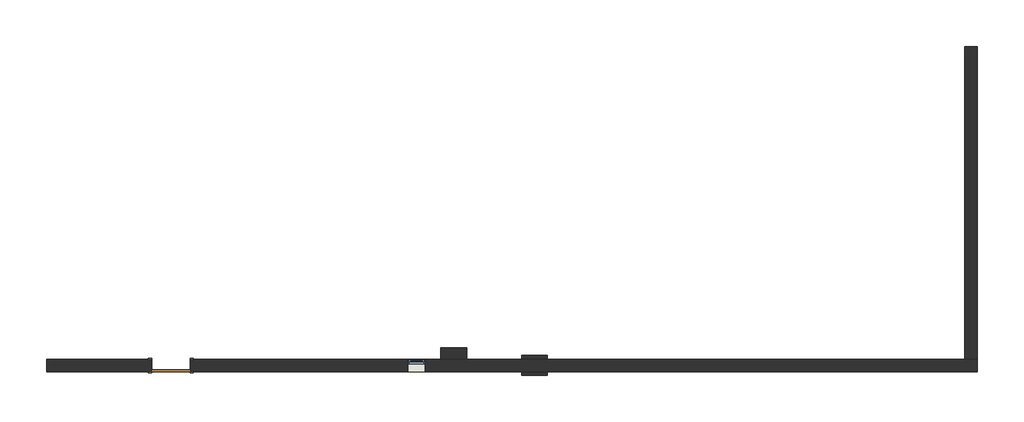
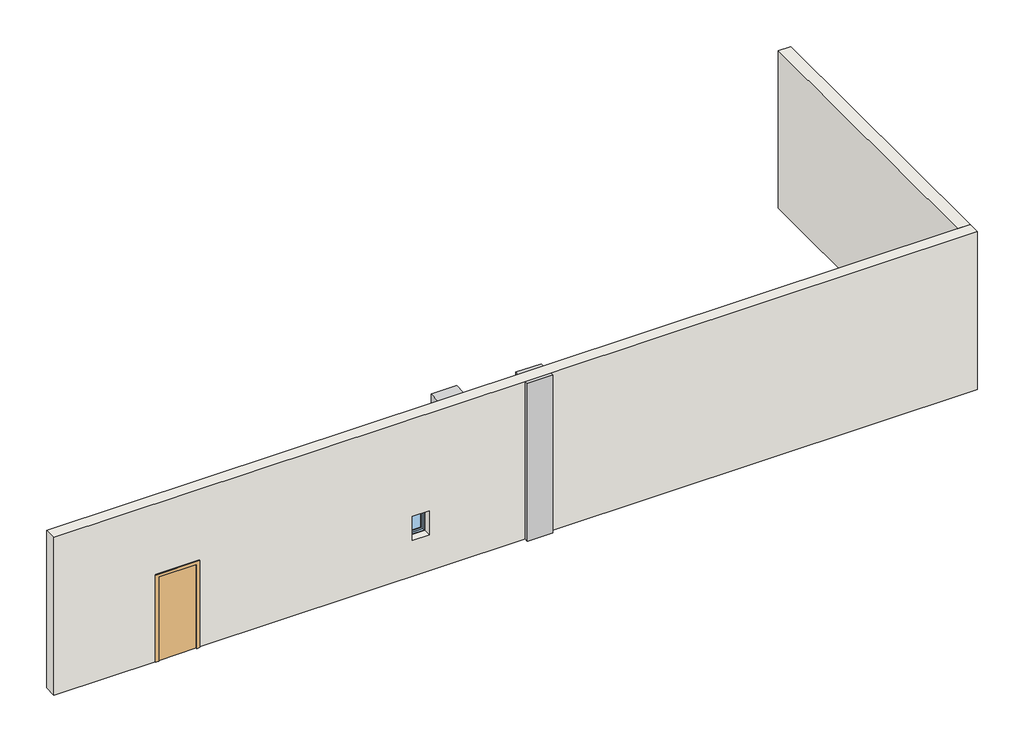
# One storey: 2 columns, 2 walls, 1 door, 1 window.
"""IFC4 building model written with IfcOpenShell, lengths in millimetres."""

import ifcopenshell
import ifcopenshell.guid

model = None  # the IFC model being written
_history = None  # IfcOwnerHistory: only IFC2X3 demands one
_inside = {}  # id of a spatial element -> (the spatial element, [elements in it])
_under = {}  # id of a project, library or spatial element -> (it, [spatial elements below it])
_declared = {}  # id of a project -> (the project, [libraries it declares])
_typed = {}  # id of a type object -> (the type object, [elements of that type])
_made_of = {}  # id of a material, layer set ... -> (it, [elements and type objects made of it])


def new_model(schema):
    """Start an empty IFC model of exactly this schema.

    Asked for "IFC4X3", IfcOpenShell would pick the latest addendum, in which some entities
    have other attributes; the version numbers below select the first issue.
    IFC2X3 requires an IfcOwnerHistory on every rooted entity: one is made here for all.
    """
    global model, _history
    if schema == "IFC4X3":
        model = ifcopenshell.file(schema_version=(4, 3, 0, 0))
    else:
        model = ifcopenshell.file(schema=schema)
    _inside.clear()
    _under.clear()
    _declared.clear()
    _typed.clear()
    _made_of.clear()
    _history = None
    if model.schema == "IFC2X3":
        org = make("IfcOrganization", Name="unknown")
        user = make(
            "IfcPersonAndOrganization",
            ThePerson=make("IfcPerson", FamilyName="unknown"),
            TheOrganization=org,
        )
        app = make(
            "IfcApplication",
            ApplicationDeveloper=org,
            Version="unknown",
            ApplicationFullName="unknown",
            ApplicationIdentifier="unknown",
        )
        _history = make(
            "IfcOwnerHistory",
            OwningUser=user,
            OwningApplication=app,
            ChangeAction="ADDED",
            CreationDate=0,
        )
    return model


def make(cls, **values):
    """One entity of the class cls with the attributes given. An attribute that is None is left unset."""
    return model.create_entity(
        cls, **{name: value for name, value in values.items() if value is not None}
    )


def rooted(cls, **values):
    """An entity with a GlobalId (a new one), such as an element, a storey or a relation."""
    return make(cls, GlobalId=ifcopenshell.guid.new(), OwnerHistory=_history, **values)


def si_unit(unit_type, name, prefix=None):
    """IfcSIUnit, for example si_unit("LENGTHUNIT", "METRE", prefix="MILLI")."""
    return make("IfcSIUnit", UnitType=unit_type, Prefix=prefix, Name=name)


def assignment(units):
    """IfcUnitAssignment: the units of a project."""
    return None if units is None else make("IfcUnitAssignment", Units=units)


def point(xyz):
    """IfcCartesianPoint."""
    return None if xyz is None else make("IfcCartesianPoint", Coordinates=xyz)


def direction(xyz):
    """IfcDirection."""
    return None if xyz is None else make("IfcDirection", DirectionRatios=xyz)


def frame(location, z_axis=None, x_axis=None):
    """IfcAxis2Placement3D, a coordinate frame: its origin and axes. An axis left out is left unset."""
    return make(
        "IfcAxis2Placement3D",
        Location=point(location),
        Axis=direction(z_axis),
        RefDirection=direction(x_axis),
    )


def origin():
    """The frame at (0, 0, 0) with its axes left unset."""
    return frame((0.0, 0.0, 0.0))


def origin_with_axes():
    """The frame at (0, 0, 0) with the z axis (0, 0, 1) and the x axis (1, 0, 0) written out."""
    return frame((0.0, 0.0, 0.0), z_axis=(0.0, 0.0, 1.0), x_axis=(1.0, 0.0, 0.0))


def place(relative_to, where):
    """IfcLocalPlacement: puts the frame where relative to a parent placement (None: the world)."""
    return make(
        "IfcLocalPlacement", PlacementRelTo=relative_to, RelativePlacement=where
    )


def context(
    kind, dimensions, precision=None, world=None, true_north=None, identifier=None
):
    """IfcGeometricRepresentationContext, for example the 3D "Model" context."""
    return make(
        "IfcGeometricRepresentationContext",
        ContextIdentifier=identifier,
        ContextType=kind,
        CoordinateSpaceDimension=dimensions,
        Precision=precision,
        WorldCoordinateSystem=world,
        TrueNorth=true_north,
    )


def project(units=None, contexts=None):
    """IfcProject with its units and contexts."""
    return rooted(
        "IfcProject",
        Name="project",
        RepresentationContexts=contexts,
        UnitsInContext=assignment(units),
    )


def spatial(cls, under=None, at=None, **own):
    """A site, building, storey or space (cls), placed at a placement, below another one or the project."""
    s = rooted(cls, ObjectPlacement=at, **own)
    if under is not None:
        _under.setdefault(under.id(), (under, []))[1].append(s)
    return s


def polyline(points):
    """IfcPolyline through the points."""
    return make("IfcPolyline", Points=[point(p) for p in points])


def outline(outer, holes=None, kind="AREA"):
    """IfcArbitraryClosedProfileDef: a profile drawn as a closed curve; with holes, ...WithVoids."""
    if holes is None:
        return make("IfcArbitraryClosedProfileDef", ProfileType=kind, OuterCurve=outer)
    return make(
        "IfcArbitraryProfileDefWithVoids",
        ProfileType=kind,
        OuterCurve=outer,
        InnerCurves=holes,
    )


def extrude(swept, where, along, depth):
    """IfcExtrudedAreaSolid: the profile swept, set in the frame where, extruded along a direction by depth."""
    return make(
        "IfcExtrudedAreaSolid",
        SweptArea=swept,
        Position=where,
        ExtrudedDirection=direction(along),
        Depth=depth,
    )


def faces_of(points, faces, orient=None, outer=None):
    """IfcFace entities. A face is a list of loops; a loop is a list of indices into points, from 0.

    orient and outer hold one flag for each loop. By default every Orientation is true, the
    first loop of a face is its IfcFaceOuterBound and the others are IfcFaceBound.
    """
    made = []
    for i, loops in enumerate(faces):
        bounds = []
        for j, loop in enumerate(loops):
            is_outer = j == 0 if outer is None else outer[i][j]
            bounds.append(
                make(
                    "IfcFaceOuterBound" if is_outer else "IfcFaceBound",
                    Bound=make("IfcPolyLoop", Polygon=[points[k] for k in loop]),
                    Orientation=True if orient is None else orient[i][j],
                )
            )
        made.append(make("IfcFace", Bounds=bounds))
    return made


def faceted_brep(points, faces, orient=None, outer=None, voids=None):
    """IfcFacetedBrep: a solid bounded by flat faces; with voids (closed shells), ...WithVoids."""
    shared = [point(p) for p in points]
    hull = make("IfcClosedShell", CfsFaces=faces_of(shared, faces, orient, outer))
    if voids is None:
        return make("IfcFacetedBrep", Outer=hull)
    return make(
        "IfcFacetedBrepWithVoids",
        Outer=hull,
        Voids=[
            make(cls, CfsFaces=faces_of(shared, fs, o, b)) for cls, fs, o, b in voids
        ],
    )


def shape(context_of_items, identifier, shape_type, items):
    """IfcShapeRepresentation: the items that make up one representation, for example the "Body"."""
    return make(
        "IfcShapeRepresentation",
        ContextOfItems=context_of_items,
        RepresentationIdentifier=identifier,
        RepresentationType=shape_type,
        Items=items,
    )


def source(mapping_origin, context_of_items, identifier, shape_type, items):
    """IfcRepresentationMap: a shape defined once, which mapped items show again and again."""
    return make(
        "IfcRepresentationMap",
        MappingOrigin=mapping_origin,
        MappedRepresentation=shape(context_of_items, identifier, shape_type, items),
    )


def transform(
    local_origin,
    x_axis=None,
    y_axis=None,
    z_axis=None,
    scale=None,
    scale2=None,
    scale3=None,
    uniform=True,
):
    """IfcCartesianTransformationOperator3D, or its non-uniform kind. x_axis, y_axis, z_axis: its Axis1, 2, 3."""
    if uniform:
        return make(
            "IfcCartesianTransformationOperator3D",
            Axis1=direction(x_axis),
            Axis2=direction(y_axis),
            LocalOrigin=point(local_origin),
            Scale=scale,
            Axis3=direction(z_axis),
        )
    return make(
        "IfcCartesianTransformationOperator3DnonUniform",
        Axis1=direction(x_axis),
        Axis2=direction(y_axis),
        LocalOrigin=point(local_origin),
        Scale=scale,
        Axis3=direction(z_axis),
        Scale2=scale2,
        Scale3=scale3,
    )


def mapped(mapping_source, mapping_target):
    """IfcMappedItem: shows the shape of a source again, moved by a transform."""
    return make(
        "IfcMappedItem", MappingSource=mapping_source, MappingTarget=mapping_target
    )


def made_of(thing, what):
    """Note that an element or type object is made of a material, layer set ...; save() writes the relation."""
    if what is not None:
        _made_of.setdefault(what.id(), (what, []))[1].append(thing)
    return thing


def element(
    cls,
    number,
    at=None,
    inside=None,
    cuts=None,
    type_object=None,
    material=None,
    context=None,
    identifier="Body",
    shape_type=None,
    held_by="IfcProductDefinitionShape",
    body=None,
    shapes=None,
    **own,
):
    """One element of the class cls, such as IfcWall. Its Tag is "e" and its number.

    at: its placement. inside: the storey or other place that contains it. cuts: it is an
    opening in that element (IfcRelVoidsElement). A single representation is given by context,
    identifier, shape_type and body (its items); several are given by shapes. held_by: the class
    of the entity that holds the representations. save() writes the other relations.
    """
    e = rooted(cls, Tag="e%d" % number, ObjectPlacement=at, **own)
    if body is not None:
        shapes = [shape(context, identifier, shape_type, body)]
    if shapes is not None:
        e.Representation = make(held_by, Representations=shapes)
    if inside is not None:
        _inside.setdefault(inside.id(), (inside, []))[1].append(e)
    if cuts is not None:
        rooted(
            "IfcRelVoidsElement", RelatingBuildingElement=cuts, RelatedOpeningElement=e
        )
    if type_object is not None:
        _typed.setdefault(type_object.id(), (type_object, []))[1].append(e)
    return made_of(e, material)


def aggregate(whole, parts):
    """IfcRelAggregates: a whole, such as a stair, and the parts it consists of."""
    return rooted("IfcRelAggregates", RelatingObject=whole, RelatedObjects=parts)


def save(model, path):
    """Write the relations noted so far, then the file.

    IfcRelAggregates (storeys below a building ...), IfcRelContainedInSpatialStructure (elements
    in a storey), IfcRelDefinesByType, IfcRelAssociatesMaterial and IfcRelDeclares: one each for
    every whole, place, type object, material and project.
    """
    for whole, parts in _under.values():
        aggregate(whole, parts)
    for where, things in _inside.values():
        rooted(
            "IfcRelContainedInSpatialStructure",
            RelatedElements=things,
            RelatingStructure=where,
        )
    for kind, things in _typed.values():
        rooted("IfcRelDefinesByType", RelatedObjects=things, RelatingType=kind)
    for what, things in _made_of.values():
        rooted("IfcRelAssociatesMaterial", RelatedObjects=things, RelatingMaterial=what)
    for by, libraries in _declared.values():
        rooted("IfcRelDeclares", RelatingContext=by, RelatedDefinitions=libraries)
    model.write(path)


def door_0915_x_2134_mm_6ca60589(model_context):
    return source(origin(), model_context, "Body", "SweptSolid", [
        extrude(outline(polyline([(2210.0, -533.5), (0.0, -533.5), (0.0, -457.5), (2134.0, -457.5), (2134.0, 457.5), (0.0, 457.5), (0.0, 533.5), (2210.0, 533.5), (2210.0, -533.5)])), frame((0.0, 149.5, 0.0), z_axis=(0.0, 1.0, 0.0), x_axis=(0.0, 0.0, 1.0)), (0.0, 0.0, 1.0), 25.0),
        extrude(outline(polyline([(2210.0, 533.5), (2210.0, -533.5), (0.0, -533.5), (0.0, -457.5), (2134.0, -457.5), (2134.0, 457.5), (0.0, 457.5), (0.0, 533.5), (2210.0, 533.5)])), frame((0.0, -174.5, 0.0), z_axis=(0.0, 1.0, 0.0), x_axis=(0.0, 0.0, 1.0)), (0.0, 0.0, 1.0), 25.0),
        extrude(outline(polyline([(457.5, 98.5), (-457.5, 98.5), (-457.5, 149.5), (457.5, 149.5), (457.5, 98.5)])), origin_with_axes(), (0.0, 0.0, 1.0), 2134.0),
    ])


def window_0406_x_0610_mm_7f15c608(model_context):
    return source(origin(), model_context, "Body", "SweptSolid", [
        extrude(outline(polyline([(-140.0, 127.5), (140.0, 127.5), (140.0, 115.5), (-140.0, 115.5), (-140.0, 127.5)])), frame((0.0, 0.0, 978.0), z_axis=(0.0, 0.0, 1.0), x_axis=(1.0, 0.0, 0.0)), (0.0, 0.0, 1.0), 484.0),
        extrude(outline(polyline([(1506.0, -184.0), (934.0, -184.0), (934.0, 184.0), (1506.0, 184.0), (1506.0, -184.0)]), holes=[polyline([(1462.0, -140.0), (1462.0, 140.0), (978.0, 140.0), (978.0, -140.0), (1462.0, -140.0)])]), frame((0.0, 99.5, 0.0), z_axis=(0.0, 1.0, 0.0), x_axis=(0.0, 0.0, 1.0)), (0.0, 0.0, 1.0), 44.0),
        extrude(outline(polyline([(1525.0, -203.0), (915.0, -203.0), (915.0, 203.0), (1525.0, 203.0), (1525.0, -203.0)]), holes=[polyline([(1506.0, -184.0), (1506.0, 184.0), (934.0, 184.0), (934.0, -184.0), (1506.0, -184.0)])]), frame((0.0, 50.0, 0.0), z_axis=(0.0, 1.0, 0.0), x_axis=(0.0, 0.0, 1.0)), (0.0, 0.0, 1.0), 112.5),
    ])


model = new_model("IFC4")

# Units and contexts
model_context = context("Model", 3, world=origin())
ifc_project = project(units=[si_unit("LENGTHUNIT", "METRE", prefix="MILLI")], contexts=[model_context])

# Site, building, storey
site = spatial("IfcSite", under=ifc_project)
building = spatial("IfcBuilding", under=site)
storey = spatial("IfcBuildingStorey", under=building, Name="樓層 1", Elevation=0.0)

# Columns
placement = place(None, origin())
element("IfcColumn", 1, ObjectType="M_矩形柱 : 475 x 610 mm", at=placement, inside=storey, context=model_context, shape_type="SweptSolid", body=[
    extrude(outline(polyline([(-6886.9730747, 7332.2280496), (-6276.9730747, 7332.2280496), (-6276.9730747, 7054.7280496), (-6886.9730747, 7054.7280496), (-6886.9730747, 7332.2280496)])), origin_with_axes(), (0.0, 0.0, 1.0), 4000.0),
])
element("IfcColumn", 2, ObjectType="M_矩形柱 : 475 x 610 mm", at=placement, inside=storey, context=model_context, shape_type="SweptSolid", body=[
    extrude(outline(polyline([(-4966.9730747, 7142.7280496), (-4356.9730747, 7142.7280496), (-4356.9730747, 7054.7280496), (-4966.9730747, 7054.7280496), (-4966.9730747, 7142.7280496)])), origin_with_axes(), (0.0, 0.0, 1.0), 4000.0),
    extrude(outline(polyline([(-4356.9730747, 6667.7280496), (-4966.9730747, 6667.7280496), (-4966.9730747, 6755.7280496), (-4356.9730747, 6755.7280496), (-4356.9730747, 6667.7280496)])), origin_with_axes(), (0.0, 0.0, 1.0), 4000.0),
])

# Door
door_0915_x_2134_mm_shape = door_0915_x_2134_mm_6ca60589(model_context)
element("IfcDoor", 3, ObjectType="M_單個嵌平 : 0915 x 2134 mm", at=placement, inside=storey, context=model_context, shape_type="MappedRepresentation", body=[
    mapped(door_0915_x_2134_mm_shape, transform((-13313.9730747, 6905.2280496, 0.0), x_axis=(-1.0, 0.0, 0.0), y_axis=(0.0, -1.0, 0.0), z_axis=(0.0, 0.0, 1.0))),
])

# Walls
element("IfcWall", 4, ObjectType="CW 102-85-100p", at=placement, inside=storey, context=model_context, shape_type="Brep", body=[
    faceted_brep([(-16271.4730747, 6755.7280496, 0.0), (-13771.4730747, 6755.7280496, 0.0), (-13771.4730747, 6755.7280496, 2134.0), (-12856.4730747, 6755.7280496, 2134.0), (-12856.4730747, 6755.7280496, 0.0), (-4966.9730747, 6755.7280496, 0.0), (-4356.9730747, 6755.7280496, 0.0), (5878.0269253, 6755.7280496, 0.0), (5878.0269253, 6755.7280496, 4000.0), (-4356.9730747, 6755.7280496, 4000.0), (-4966.9730747, 6755.7280496, 4000.0), (-16271.4730747, 6755.7280496, 4000.0), (-7671.4730747, 6755.7280496, 915.0), (-7671.4730747, 6755.7280496, 1525.0), (-7265.4730747, 6755.7280496, 1525.0), (-7265.4730747, 6755.7280496, 915.0), (-13771.4730747, 7054.7280496, 2134.0), (-13771.4730747, 7054.7280496, 0.0), (-16271.4730747, 7054.7280496, 0.0), (-16271.4730747, 7054.7280496, 4000.0), (-6886.9730747, 7054.7280496, 4000.0), (-6276.9730747, 7054.7280496, 4000.0), (-4966.9730747, 7054.7280496, 4000.0), (-4356.9730747, 7054.7280496, 4000.0), (5579.0269253, 7054.7280496, 4000.0), (5878.0269253, 7054.7280496, 4000.0), (5878.0269253, 7054.7280496, 0.0), (5579.0269253, 7054.7280496, 0.0), (-4356.9730747, 7054.7280496, 0.0), (-4966.9730747, 7054.7280496, 0.0), (-6276.9730747, 7054.7280496, 0.0), (-6886.9730747, 7054.7280496, 0.0), (-12856.4730747, 7054.7280496, 0.0), (-12856.4730747, 7054.7280496, 2134.0), (-7671.4730747, 7054.7280496, 915.0), (-7265.4730747, 7054.7280496, 915.0), (-7265.4730747, 7054.7280496, 1525.0), (-7671.4730747, 7054.7280496, 1525.0)], [[[0, 1, 2, 3, 4, 5, 6, 7, 8, 9, 10, 11], [12, 13, 14, 15]], [[16, 17, 18, 19, 20, 21, 22, 23, 24, 25, 26, 27, 28, 29, 30, 31, 32, 33], [34, 35, 36, 37]], [[18, 17, 1, 0]], [[32, 31, 30, 29, 28, 27, 26, 7, 6, 5, 4]], [[11, 10, 9, 8, 25, 24, 23, 22, 21, 20, 19]], [[0, 11, 19, 18]], [[8, 7, 26, 25]], [[13, 12, 34, 37]], [[14, 13, 37, 36]], [[15, 14, 36, 35]], [[12, 15, 35, 34]], [[2, 1, 17, 16]], [[3, 2, 16, 33]], [[4, 3, 33, 32]]]),
])
element("IfcWall", 5, ObjectType="CW 102-85-100p", at=placement, inside=storey, context=model_context, shape_type="SweptSolid", body=[
    extrude(outline(polyline([(5878.0269253, 14505.2280496), (5878.0269253, 7054.7280496), (5579.0269253, 7054.7280496), (5579.0269253, 14505.2280496), (5878.0269253, 14505.2280496)])), origin_with_axes(), (0.0, 0.0, 1.0), 4000.0),
])

# Window
window_0406_x_0610_mm_shape = window_0406_x_0610_mm_7f15c608(model_context)
element("IfcWindow", 6, ObjectType="M_固定 : 0406 x 0610 mm", at=placement, inside=storey, context=model_context, shape_type="MappedRepresentation", body=[
    mapped(window_0406_x_0610_mm_shape, transform((-7468.4730747, 6892.2280496, 0.0), x_axis=(1.0, 0.0, 0.0), y_axis=(0.0, 1.0, 0.0), z_axis=(0.0, 0.0, 1.0))),
])

save(model, "model.ifc")
